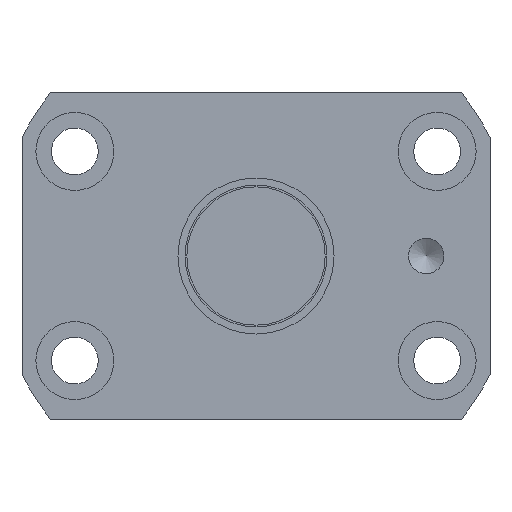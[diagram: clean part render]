
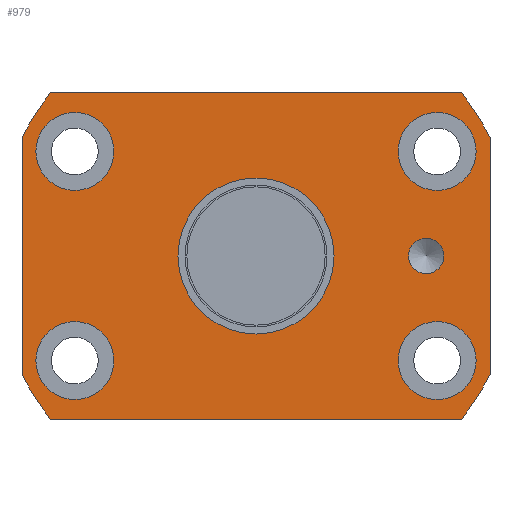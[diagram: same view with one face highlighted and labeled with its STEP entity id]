
A CAD part, left-side view. The second image highlights one B-rep face of the part: STEP entity #979.
In plain terms, the highlighted planar face has unit normal (-1, 0, 0).
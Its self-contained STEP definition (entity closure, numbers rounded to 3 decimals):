
#10 = DIRECTION ( 'NONE',  ( 1., 0., 0. ) ) ;
#17 = DIRECTION ( 'NONE',  ( 0., 1., 0. ) ) ;
#30 = VERTEX_POINT ( 'NONE', #1302 ) ;
#37 = ORIENTED_EDGE ( 'NONE', *, *, #1156, .F. ) ;
#51 = EDGE_CURVE ( 'NONE', #2848, #2848, #507, .T. ) ;
#55 = PLANE ( 'NONE',  #3230 ) ;
#69 = VERTEX_POINT ( 'NONE', #1522 ) ;
#127 = DIRECTION ( 'NONE',  ( -1., 0., 0. ) ) ;
#149 = VERTEX_POINT ( 'NONE', #3186 ) ;
#152 = AXIS2_PLACEMENT_3D ( 'NONE', #1639, #581, #2205 ) ;
#177 = CARTESIAN_POINT ( 'NONE',  ( 0., 0., 0. ) ) ;
#178 = ORIENTED_EDGE ( 'NONE', *, *, #2438, .F. ) ;
#242 = CARTESIAN_POINT ( 'NONE',  ( 0., -20.048, 14.75 ) ) ;
#256 = CARTESIAN_POINT ( 'NONE',  ( 0., 0., 0. ) ) ;
#258 = VERTEX_POINT ( 'NONE', #1284 ) ;
#265 = DIRECTION ( 'NONE',  ( 0., 0., 1. ) ) ;
#293 = ORIENTED_EDGE ( 'NONE', *, *, #1208, .F. ) ;
#299 = CIRCLE ( 'NONE', #774, 11. ) ;
#301 = FACE_OUTER_BOUND ( 'NONE', #2803, .T. ) ;
#335 = EDGE_LOOP ( 'NONE', ( #3306 ) ) ;
#364 = CIRCLE ( 'NONE', #1466, 2.5 ) ;
#382 = ORIENTED_EDGE ( 'NONE', *, *, #2036, .F. ) ;
#409 = AXIS2_PLACEMENT_3D ( 'NONE', #256, #10, #1278 ) ;
#437 = EDGE_LOOP ( 'NONE', ( #2495 ) ) ;
#439 = DIRECTION ( 'NONE',  ( -1., 0., 0. ) ) ;
#465 = EDGE_CURVE ( 'NONE', #1317, #1317, #1971, .T. ) ;
#486 = DIRECTION ( 'NONE',  ( 0., 0., 1. ) ) ;
#488 = EDGE_LOOP ( 'NONE', ( #1657 ) ) ;
#507 = CIRCLE ( 'NONE', #1966, 5.5 ) ;
#532 = DIRECTION ( 'NONE',  ( 1., 0., 0. ) ) ;
#558 = CARTESIAN_POINT ( 'NONE',  ( 0., -20.048, -14.75 ) ) ;
#581 = DIRECTION ( 'NONE',  ( 1., 0., 0. ) ) ;
#585 = FACE_BOUND ( 'NONE', #437, .T. ) ;
#602 = CARTESIAN_POINT ( 'NONE',  ( 0., -25.548, 14.75 ) ) ;
#631 = VERTEX_POINT ( 'NONE', #1590 ) ;
#660 = ORIENTED_EDGE ( 'NONE', *, *, #2849, .F. ) ;
#678 = AXIS2_PLACEMENT_3D ( 'NONE', #602, #1326, #2130 ) ;
#705 = EDGE_CURVE ( 'NONE', #1549, #1549, #1106, .T. ) ;
#752 = DIRECTION ( 'NONE',  ( 1., 0., 0. ) ) ;
#765 = VERTEX_POINT ( 'NONE', #3100 ) ;
#774 = AXIS2_PLACEMENT_3D ( 'NONE', #3036, #998, #17 ) ;
#796 = EDGE_CURVE ( 'NONE', #1561, #1823, #2085, .T. ) ;
#857 = FACE_BOUND ( 'NONE', #1911, .T. ) ;
#873 = FACE_BOUND ( 'NONE', #1669, .T. ) ;
#966 = VERTEX_POINT ( 'NONE', #1830 ) ;
#979 = ADVANCED_FACE ( 'NONE', ( #857, #2670, #2653, #585, #1147, #301, #873 ), #55, .T. ) ;
#986 = CARTESIAN_POINT ( 'NONE',  ( 0., 0., 0. ) ) ;
#998 = DIRECTION ( 'NONE',  ( 1., 0., 0. ) ) ;
#1001 = ORIENTED_EDGE ( 'NONE', *, *, #1292, .T. ) ;
#1049 = VECTOR ( 'NONE', #3251, 1000. ) ;
#1094 = CARTESIAN_POINT ( 'NONE',  ( 0., 17., 0. ) ) ;
#1106 = CIRCLE ( 'NONE', #152, 5.5 ) ;
#1147 = FACE_BOUND ( 'NONE', #335, .T. ) ;
#1156 = EDGE_CURVE ( 'NONE', #765, #1561, #1410, .T. ) ;
#1164 = CARTESIAN_POINT ( 'NONE',  ( 0., 0., 0. ) ) ;
#1208 = EDGE_CURVE ( 'NONE', #30, #30, #364, .T. ) ;
#1242 = CARTESIAN_POINT ( 'NONE',  ( 0., -25.548, -14.75 ) ) ;
#1248 = EDGE_CURVE ( 'NONE', #1823, #631, #2809, .T. ) ;
#1259 = VECTOR ( 'NONE', #2222, 1000. ) ;
#1269 = CIRCLE ( 'NONE', #2468, 5.5 ) ;
#1278 = DIRECTION ( 'NONE',  ( 0., 1., 0. ) ) ;
#1284 = CARTESIAN_POINT ( 'NONE',  ( 0., -33., -16.733 ) ) ;
#1292 = EDGE_CURVE ( 'NONE', #1584, #1584, #299, .T. ) ;
#1302 = CARTESIAN_POINT ( 'NONE',  ( 0., -24., 2.5 ) ) ;
#1317 = VERTEX_POINT ( 'NONE', #242 ) ;
#1326 = DIRECTION ( 'NONE',  ( 1., 0., 0. ) ) ;
#1410 = LINE ( 'NONE', #2720, #1259 ) ;
#1413 = DIRECTION ( 'NONE',  ( 1., 0., 0. ) ) ;
#1450 = EDGE_CURVE ( 'NONE', #1684, #258, #2471, .T. ) ;
#1466 = AXIS2_PLACEMENT_3D ( 'NONE', #2759, #439, #265 ) ;
#1519 = DIRECTION ( 'NONE',  ( 1., 0., 0. ) ) ;
#1521 = VECTOR ( 'NONE', #486, 1000. ) ;
#1522 = CARTESIAN_POINT ( 'NONE',  ( 0., 28.983, 23. ) ) ;
#1532 = CARTESIAN_POINT ( 'NONE',  ( 0., 33., -23. ) ) ;
#1549 = VERTEX_POINT ( 'NONE', #2105 ) ;
#1556 = DIRECTION ( 'NONE',  ( 0., 1., 0. ) ) ;
#1561 = VERTEX_POINT ( 'NONE', #2339 ) ;
#1574 = EDGE_CURVE ( 'NONE', #631, #69, #2834, .T. ) ;
#1584 = VERTEX_POINT ( 'NONE', #1824 ) ;
#1590 = CARTESIAN_POINT ( 'NONE',  ( 0., 33., 16.733 ) ) ;
#1601 = ORIENTED_EDGE ( 'NONE', *, *, #1450, .F. ) ;
#1639 = CARTESIAN_POINT ( 'NONE',  ( 0., 25.548, 14.75 ) ) ;
#1654 = CIRCLE ( 'NONE', #2195, 37. ) ;
#1657 = ORIENTED_EDGE ( 'NONE', *, *, #465, .T. ) ;
#1669 = EDGE_LOOP ( 'NONE', ( #1001 ) ) ;
#1684 = VERTEX_POINT ( 'NONE', #2895 ) ;
#1762 = ORIENTED_EDGE ( 'NONE', *, *, #1248, .F. ) ;
#1776 = DIRECTION ( 'NONE',  ( 0., 1., 0. ) ) ;
#1823 = VERTEX_POINT ( 'NONE', #2038 ) ;
#1824 = CARTESIAN_POINT ( 'NONE',  ( 0., 11., 0. ) ) ;
#1830 = CARTESIAN_POINT ( 'NONE',  ( 0., -28.983, 23. ) ) ;
#1869 = AXIS2_PLACEMENT_3D ( 'NONE', #1164, #1413, #3009 ) ;
#1911 = EDGE_LOOP ( 'NONE', ( #293 ) ) ;
#1935 = DIRECTION ( 'NONE',  ( 0., -1., 0. ) ) ;
#1938 = DIRECTION ( 'NONE',  ( 1., 0., 0. ) ) ;
#1956 = EDGE_LOOP ( 'NONE', ( #3075 ) ) ;
#1966 = AXIS2_PLACEMENT_3D ( 'NONE', #1242, #752, #2820 ) ;
#1971 = CIRCLE ( 'NONE', #678, 5.5 ) ;
#2036 = EDGE_CURVE ( 'NONE', #258, #765, #1654, .T. ) ;
#2038 = CARTESIAN_POINT ( 'NONE',  ( 0., 33., -16.733 ) ) ;
#2065 = ORIENTED_EDGE ( 'NONE', *, *, #1574, .F. ) ;
#2085 = CIRCLE ( 'NONE', #2839, 37. ) ;
#2105 = CARTESIAN_POINT ( 'NONE',  ( 0., 31.048, 14.75 ) ) ;
#2128 = DIRECTION ( 'NONE',  ( 0., 0., 1. ) ) ;
#2130 = DIRECTION ( 'NONE',  ( 0., 1., 0. ) ) ;
#2189 = CARTESIAN_POINT ( 'NONE',  ( 0., -33., 23. ) ) ;
#2195 = AXIS2_PLACEMENT_3D ( 'NONE', #177, #1938, #2261 ) ;
#2196 = LINE ( 'NONE', #3242, #2200 ) ;
#2200 = VECTOR ( 'NONE', #1935, 1000. ) ;
#2205 = DIRECTION ( 'NONE',  ( 0., 1., 0. ) ) ;
#2222 = DIRECTION ( 'NONE',  ( 0., 1., 0. ) ) ;
#2261 = DIRECTION ( 'NONE',  ( 0., 1., 0. ) ) ;
#2301 = CIRCLE ( 'NONE', #1869, 37. ) ;
#2339 = CARTESIAN_POINT ( 'NONE',  ( 0., 28.983, -23. ) ) ;
#2438 = EDGE_CURVE ( 'NONE', #966, #1684, #2301, .T. ) ;
#2468 = AXIS2_PLACEMENT_3D ( 'NONE', #2855, #532, #1556 ) ;
#2471 = LINE ( 'NONE', #2189, #1049 ) ;
#2495 = ORIENTED_EDGE ( 'NONE', *, *, #705, .T. ) ;
#2653 = FACE_BOUND ( 'NONE', #488, .T. ) ;
#2670 = FACE_BOUND ( 'NONE', #1956, .T. ) ;
#2720 = CARTESIAN_POINT ( 'NONE',  ( 0., -33., -23. ) ) ;
#2727 = EDGE_CURVE ( 'NONE', #149, #149, #1269, .T. ) ;
#2759 = CARTESIAN_POINT ( 'NONE',  ( 0., -24., 0. ) ) ;
#2803 = EDGE_LOOP ( 'NONE', ( #37, #382, #1601, #178, #660, #2065, #1762, #3344 ) ) ;
#2809 = LINE ( 'NONE', #1532, #1521 ) ;
#2820 = DIRECTION ( 'NONE',  ( 0., 1., 0. ) ) ;
#2834 = CIRCLE ( 'NONE', #409, 37. ) ;
#2839 = AXIS2_PLACEMENT_3D ( 'NONE', #986, #1519, #1776 ) ;
#2848 = VERTEX_POINT ( 'NONE', #558 ) ;
#2849 = EDGE_CURVE ( 'NONE', #69, #966, #2196, .T. ) ;
#2855 = CARTESIAN_POINT ( 'NONE',  ( 0., 25.548, -14.75 ) ) ;
#2895 = CARTESIAN_POINT ( 'NONE',  ( 0., -33., 16.733 ) ) ;
#3009 = DIRECTION ( 'NONE',  ( 0., 1., 0. ) ) ;
#3036 = CARTESIAN_POINT ( 'NONE',  ( 0., 0., 0. ) ) ;
#3075 = ORIENTED_EDGE ( 'NONE', *, *, #2727, .T. ) ;
#3100 = CARTESIAN_POINT ( 'NONE',  ( 0., -28.983, -23. ) ) ;
#3186 = CARTESIAN_POINT ( 'NONE',  ( 0., 31.048, -14.75 ) ) ;
#3230 = AXIS2_PLACEMENT_3D ( 'NONE', #1094, #127, #2128 ) ;
#3242 = CARTESIAN_POINT ( 'NONE',  ( 0., 33., 23. ) ) ;
#3251 = DIRECTION ( 'NONE',  ( 0., 0., -1. ) ) ;
#3306 = ORIENTED_EDGE ( 'NONE', *, *, #51, .T. ) ;
#3344 = ORIENTED_EDGE ( 'NONE', *, *, #796, .F. ) ;
